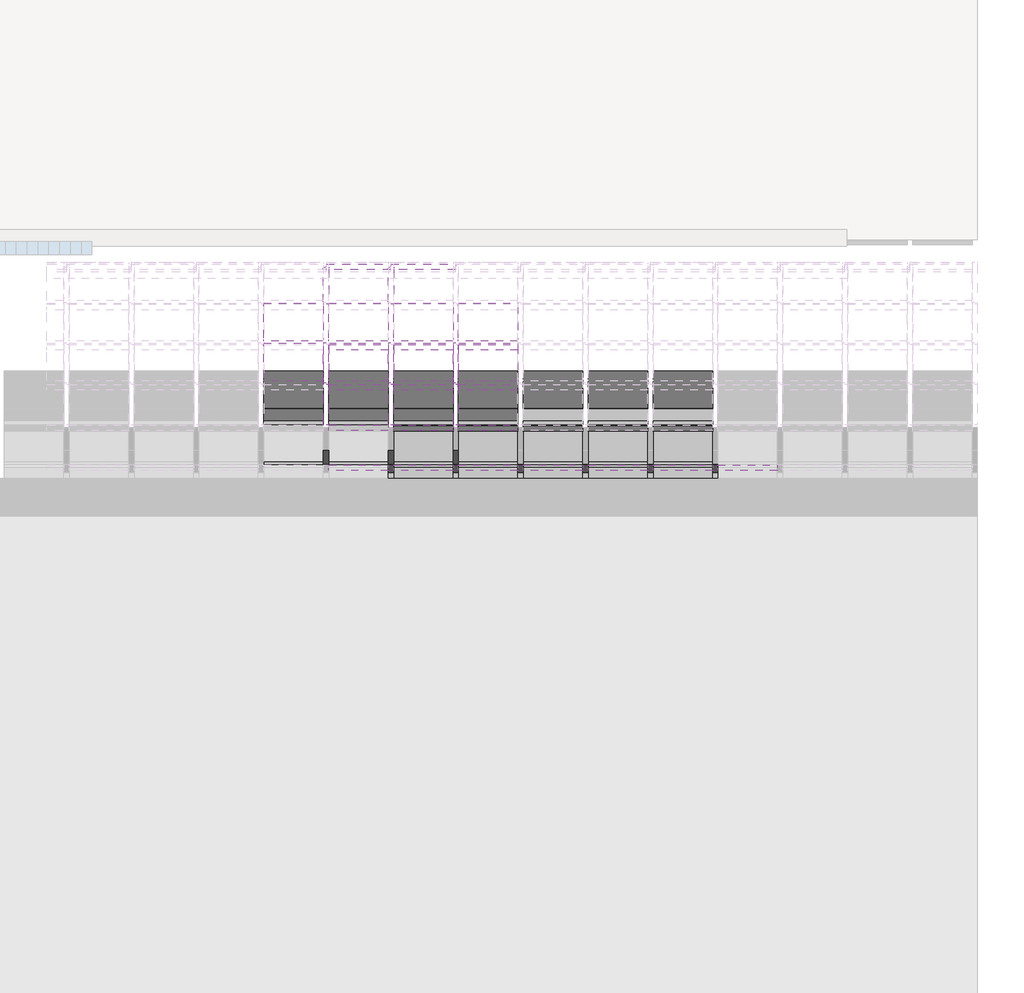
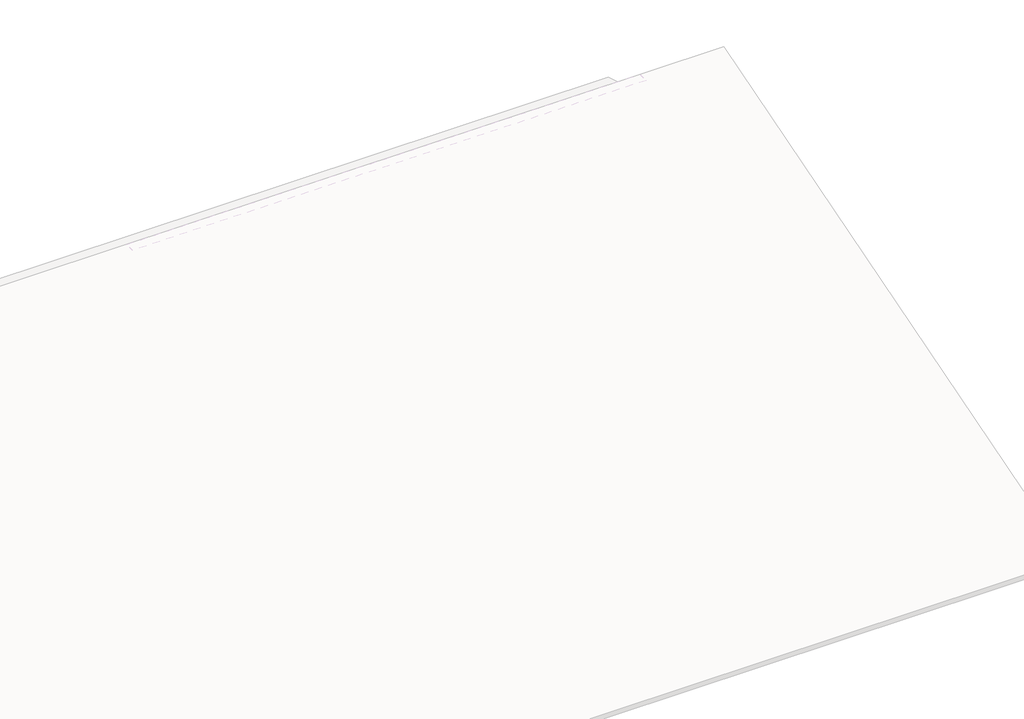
# One storey, part 51 of 57: 86 members, 38 plates.
"""IFC4 building model written with IfcOpenShell, lengths in millimetres."""

from ifc_helpers import new_model, si_unit, origin, place, context, project, spatial, transform, mapped, element, save
from components import rectangular_mullion_4c4137b9, rectangular_mullion_59984080, rectangular_mullion_2d2423ea, rectangular_mullion_caibro_df98490b, rectangular_mullion_caibro_e4384bba, rectangular_mullion_caibro_9bd7bc61, empty_system_panel_vazio_178faf58, empty_system_panel_vazio_2c78850d

model = new_model("IFC4")

# Units and contexts
model_context = context("Model", 3, world=origin())
ifc_project = project(units=[si_unit("LENGTHUNIT", "METRE", prefix="MILLI")], contexts=[model_context])

# Site, building, storey
site = spatial("IfcSite", under=ifc_project)
building = spatial("IfcBuilding", under=site)
storey = spatial("IfcBuildingStorey", under=building, Name="Nível 2", Elevation=4100.0)

# Members
placement = place(None, origin())
rectangular_mullion_shape = rectangular_mullion_4c4137b9(model_context)
element("IfcMember", 1, ObjectType="Rectangular Mullion : Ripa", at=placement, inside=storey, context=model_context, shape_type="MappedRepresentation", body=[
    mapped(rectangular_mullion_shape, transform((36380.8565248, 15566.1284427, 5819.8877114), x_axis=(0.0, 0.9578262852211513, 0.2873478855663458), y_axis=(0.0, 0.2873478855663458, -0.9578262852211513), z_axis=(-1.0, 0.0, 0.0))),
])
element("IfcMember", 2, ObjectType="Rectangular Mullion : Ripa", at=placement, inside=storey, context=model_context, shape_type="MappedRepresentation", body=[
    mapped(rectangular_mullion_shape, transform((36977.9112812, 15566.1284427, 5819.8877114), x_axis=(0.0, 0.9578262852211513, 0.2873478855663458), y_axis=(0.0, 0.2873478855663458, -0.9578262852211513), z_axis=(-1.0, 0.0, 0.0))),
])
rectangular_mullion_2_shape = rectangular_mullion_59984080(model_context)
element("IfcMember", 3, ObjectType="Rectangular Mullion : Ripa", at=placement, inside=storey, context=model_context, shape_type="MappedRepresentation", body=[
    mapped(rectangular_mullion_2_shape, transform((38197.0207941, 12234.5331147, 4820.409113), x_axis=(0.0, 0.9578262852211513, 0.2873478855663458), y_axis=(0.0, 0.2873478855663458, -0.9578262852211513), z_axis=(-1.0, 0.0, 0.0))),
])
element("IfcMember", 4, ObjectType="Rectangular Mullion : Ripa", at=placement, inside=storey, context=model_context, shape_type="MappedRepresentation", body=[
    mapped(rectangular_mullion_2_shape, transform((38794.0755505, 12234.5331147, 4820.409113), x_axis=(0.0, 0.9578262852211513, 0.2873478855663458), y_axis=(0.0, 0.2873478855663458, -0.9578262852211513), z_axis=(-1.0, 0.0, 0.0))),
])
element("IfcMember", 5, ObjectType="Rectangular Mullion : Ripa", at=placement, inside=storey, context=model_context, shape_type="MappedRepresentation", body=[
    mapped(rectangular_mullion_2_shape, transform((39391.1303069, 12234.5331147, 4820.409113), x_axis=(0.0, 0.9578262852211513, 0.2873478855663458), y_axis=(0.0, 0.2873478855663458, -0.9578262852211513), z_axis=(-1.0, 0.0, 0.0))),
])
element("IfcMember", 6, ObjectType="Rectangular Mullion : Ripa", at=placement, inside=storey, context=model_context, shape_type="MappedRepresentation", body=[
    mapped(rectangular_mullion_2_shape, transform((39988.1850634, 12234.5331147, 4820.409113), x_axis=(0.0, 0.9578262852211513, 0.2873478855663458), y_axis=(0.0, 0.2873478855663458, -0.9578262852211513), z_axis=(-1.0, 0.0, 0.0))),
])
element("IfcMember", 7, ObjectType="Rectangular Mullion : Ripa", at=placement, inside=storey, context=model_context, shape_type="MappedRepresentation", body=[
    mapped(rectangular_mullion_2_shape, transform((38197.0207941, 12604.7103734, 4931.4622906), x_axis=(0.0, 0.9578262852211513, 0.2873478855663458), y_axis=(0.0, 0.2873478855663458, -0.9578262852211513), z_axis=(-1.0, 0.0, 0.0))),
])
element("IfcMember", 8, ObjectType="Rectangular Mullion : Ripa", at=placement, inside=storey, context=model_context, shape_type="MappedRepresentation", body=[
    mapped(rectangular_mullion_2_shape, transform((38794.0755505, 12604.7103734, 4931.4622906), x_axis=(0.0, 0.9578262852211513, 0.2873478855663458), y_axis=(0.0, 0.2873478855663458, -0.9578262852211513), z_axis=(-1.0, 0.0, 0.0))),
])
element("IfcMember", 9, ObjectType="Rectangular Mullion : Ripa", at=placement, inside=storey, context=model_context, shape_type="MappedRepresentation", body=[
    mapped(rectangular_mullion_2_shape, transform((39391.1303069, 12604.7103734, 4931.4622906), x_axis=(0.0, 0.9578262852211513, 0.2873478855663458), y_axis=(0.0, 0.2873478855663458, -0.9578262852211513), z_axis=(-1.0, 0.0, 0.0))),
])
element("IfcMember", 10, ObjectType="Rectangular Mullion : Ripa", at=placement, inside=storey, context=model_context, shape_type="MappedRepresentation", body=[
    mapped(rectangular_mullion_2_shape, transform((39988.1850634, 12604.7103734, 4931.4622906), x_axis=(0.0, 0.9578262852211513, 0.2873478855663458), y_axis=(0.0, 0.2873478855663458, -0.9578262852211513), z_axis=(-1.0, 0.0, 0.0))),
])
element("IfcMember", 11, ObjectType="Rectangular Mullion : Ripa", at=placement, inside=storey, context=model_context, shape_type="MappedRepresentation", body=[
    mapped(rectangular_mullion_2_shape, transform((38197.0207941, 12974.8876321, 5042.5154682), x_axis=(0.0, 0.9578262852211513, 0.2873478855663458), y_axis=(0.0, 0.2873478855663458, -0.9578262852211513), z_axis=(-1.0, 0.0, 0.0))),
])
element("IfcMember", 12, ObjectType="Rectangular Mullion : Ripa", at=placement, inside=storey, context=model_context, shape_type="MappedRepresentation", body=[
    mapped(rectangular_mullion_2_shape, transform((38794.0755505, 12974.8876321, 5042.5154682), x_axis=(0.0, 0.9578262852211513, 0.2873478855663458), y_axis=(0.0, 0.2873478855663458, -0.9578262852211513), z_axis=(-1.0, 0.0, 0.0))),
])
element("IfcMember", 13, ObjectType="Rectangular Mullion : Ripa", at=placement, inside=storey, context=model_context, shape_type="MappedRepresentation", body=[
    mapped(rectangular_mullion_2_shape, transform((39391.1303069, 12974.8876321, 5042.5154682), x_axis=(0.0, 0.9578262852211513, 0.2873478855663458), y_axis=(0.0, 0.2873478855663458, -0.9578262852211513), z_axis=(-1.0, 0.0, 0.0))),
])
element("IfcMember", 14, ObjectType="Rectangular Mullion : Ripa", at=placement, inside=storey, context=model_context, shape_type="MappedRepresentation", body=[
    mapped(rectangular_mullion_2_shape, transform((39988.1850634, 12974.8876321, 5042.5154682), x_axis=(0.0, 0.9578262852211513, 0.2873478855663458), y_axis=(0.0, 0.2873478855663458, -0.9578262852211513), z_axis=(-1.0, 0.0, 0.0))),
])
element("IfcMember", 15, ObjectType="Rectangular Mullion : Ripa", at=placement, inside=storey, context=model_context, shape_type="MappedRepresentation", body=[
    mapped(rectangular_mullion_2_shape, transform((36405.8565248, 13345.0648907, 5153.5686458), x_axis=(0.0, 0.9578262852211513, 0.2873478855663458), y_axis=(0.0, 0.2873478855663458, -0.9578262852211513), z_axis=(-1.0, 0.0, 0.0))),
])
element("IfcMember", 16, ObjectType="Rectangular Mullion : Ripa", at=placement, inside=storey, context=model_context, shape_type="MappedRepresentation", body=[
    mapped(rectangular_mullion_2_shape, transform((37002.9112812, 13345.0648907, 5153.5686458), x_axis=(0.0, 0.9578262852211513, 0.2873478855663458), y_axis=(0.0, 0.2873478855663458, -0.9578262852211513), z_axis=(-1.0, 0.0, 0.0))),
])
element("IfcMember", 17, ObjectType="Rectangular Mullion : Ripa", at=placement, inside=storey, context=model_context, shape_type="MappedRepresentation", body=[
    mapped(rectangular_mullion_2_shape, transform((37599.9660377, 13345.0648907, 5153.5686458), x_axis=(0.0, 0.9578262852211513, 0.2873478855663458), y_axis=(0.0, 0.2873478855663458, -0.9578262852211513), z_axis=(-1.0, 0.0, 0.0))),
])
element("IfcMember", 18, ObjectType="Rectangular Mullion : Ripa", at=placement, inside=storey, context=model_context, shape_type="MappedRepresentation", body=[
    mapped(rectangular_mullion_2_shape, transform((38197.0207941, 13345.0648907, 5153.5686458), x_axis=(0.0, 0.9578262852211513, 0.2873478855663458), y_axis=(0.0, 0.2873478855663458, -0.9578262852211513), z_axis=(-1.0, 0.0, 0.0))),
])
element("IfcMember", 19, ObjectType="Rectangular Mullion : Ripa", at=placement, inside=storey, context=model_context, shape_type="MappedRepresentation", body=[
    mapped(rectangular_mullion_2_shape, transform((38794.0755505, 13345.0648907, 5153.5686458), x_axis=(0.0, 0.9578262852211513, 0.2873478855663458), y_axis=(0.0, 0.2873478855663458, -0.9578262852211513), z_axis=(-1.0, 0.0, 0.0))),
])
element("IfcMember", 20, ObjectType="Rectangular Mullion : Ripa", at=placement, inside=storey, context=model_context, shape_type="MappedRepresentation", body=[
    mapped(rectangular_mullion_2_shape, transform((39391.1303069, 13345.0648907, 5153.5686458), x_axis=(0.0, 0.9578262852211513, 0.2873478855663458), y_axis=(0.0, 0.2873478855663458, -0.9578262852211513), z_axis=(-1.0, 0.0, 0.0))),
])
element("IfcMember", 21, ObjectType="Rectangular Mullion : Ripa", at=placement, inside=storey, context=model_context, shape_type="MappedRepresentation", body=[
    mapped(rectangular_mullion_2_shape, transform((39988.1850634, 13345.0648907, 5153.5686458), x_axis=(0.0, 0.9578262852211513, 0.2873478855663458), y_axis=(0.0, 0.2873478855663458, -0.9578262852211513), z_axis=(-1.0, 0.0, 0.0))),
])
element("IfcMember", 22, ObjectType="Rectangular Mullion : Ripa", at=placement, inside=storey, context=model_context, shape_type="MappedRepresentation", body=[
    mapped(rectangular_mullion_2_shape, transform((36405.8565248, 13715.2421494, 5264.6218234), x_axis=(0.0, 0.9578262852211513, 0.2873478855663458), y_axis=(0.0, 0.2873478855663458, -0.9578262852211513), z_axis=(-1.0, 0.0, 0.0))),
])
element("IfcMember", 23, ObjectType="Rectangular Mullion : Ripa", at=placement, inside=storey, context=model_context, shape_type="MappedRepresentation", body=[
    mapped(rectangular_mullion_2_shape, transform((37002.9112812, 13715.2421494, 5264.6218234), x_axis=(0.0, 0.9578262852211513, 0.2873478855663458), y_axis=(0.0, 0.2873478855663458, -0.9578262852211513), z_axis=(-1.0, 0.0, 0.0))),
])
element("IfcMember", 24, ObjectType="Rectangular Mullion : Ripa", at=placement, inside=storey, context=model_context, shape_type="MappedRepresentation", body=[
    mapped(rectangular_mullion_2_shape, transform((37599.9660377, 13715.2421494, 5264.6218234), x_axis=(0.0, 0.9578262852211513, 0.2873478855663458), y_axis=(0.0, 0.2873478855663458, -0.9578262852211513), z_axis=(-1.0, 0.0, 0.0))),
])
element("IfcMember", 25, ObjectType="Rectangular Mullion : Ripa", at=placement, inside=storey, context=model_context, shape_type="MappedRepresentation", body=[
    mapped(rectangular_mullion_2_shape, transform((38197.0207941, 13715.2421494, 5264.6218234), x_axis=(0.0, 0.9578262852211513, 0.2873478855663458), y_axis=(0.0, 0.2873478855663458, -0.9578262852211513), z_axis=(-1.0, 0.0, 0.0))),
])
element("IfcMember", 26, ObjectType="Rectangular Mullion : Ripa", at=placement, inside=storey, context=model_context, shape_type="MappedRepresentation", body=[
    mapped(rectangular_mullion_2_shape, transform((38794.0755505, 13715.2421494, 5264.6218234), x_axis=(0.0, 0.9578262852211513, 0.2873478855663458), y_axis=(0.0, 0.2873478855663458, -0.9578262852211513), z_axis=(-1.0, 0.0, 0.0))),
])
element("IfcMember", 27, ObjectType="Rectangular Mullion : Ripa", at=placement, inside=storey, context=model_context, shape_type="MappedRepresentation", body=[
    mapped(rectangular_mullion_2_shape, transform((39391.1303069, 13715.2421494, 5264.6218234), x_axis=(0.0, 0.9578262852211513, 0.2873478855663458), y_axis=(0.0, 0.2873478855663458, -0.9578262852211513), z_axis=(-1.0, 0.0, 0.0))),
])
element("IfcMember", 28, ObjectType="Rectangular Mullion : Ripa", at=placement, inside=storey, context=model_context, shape_type="MappedRepresentation", body=[
    mapped(rectangular_mullion_2_shape, transform((39988.1850634, 13715.2421494, 5264.6218234), x_axis=(0.0, 0.9578262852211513, 0.2873478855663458), y_axis=(0.0, 0.2873478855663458, -0.9578262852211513), z_axis=(-1.0, 0.0, 0.0))),
])
element("IfcMember", 29, ObjectType="Rectangular Mullion : Ripa", at=placement, inside=storey, context=model_context, shape_type="MappedRepresentation", body=[
    mapped(rectangular_mullion_2_shape, transform((36405.8565248, 14085.4194081, 5375.675001), x_axis=(0.0, 0.9578262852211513, 0.2873478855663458), y_axis=(0.0, 0.2873478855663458, -0.9578262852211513), z_axis=(-1.0, 0.0, 0.0))),
])
element("IfcMember", 30, ObjectType="Rectangular Mullion : Ripa", at=placement, inside=storey, context=model_context, shape_type="MappedRepresentation", body=[
    mapped(rectangular_mullion_2_shape, transform((37002.9112812, 14085.4194081, 5375.675001), x_axis=(0.0, 0.9578262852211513, 0.2873478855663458), y_axis=(0.0, 0.2873478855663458, -0.9578262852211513), z_axis=(-1.0, 0.0, 0.0))),
])
element("IfcMember", 31, ObjectType="Rectangular Mullion : Ripa", at=placement, inside=storey, context=model_context, shape_type="MappedRepresentation", body=[
    mapped(rectangular_mullion_2_shape, transform((37599.9660377, 14085.4194081, 5375.675001), x_axis=(0.0, 0.9578262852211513, 0.2873478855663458), y_axis=(0.0, 0.2873478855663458, -0.9578262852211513), z_axis=(-1.0, 0.0, 0.0))),
])
element("IfcMember", 32, ObjectType="Rectangular Mullion : Ripa", at=placement, inside=storey, context=model_context, shape_type="MappedRepresentation", body=[
    mapped(rectangular_mullion_2_shape, transform((36405.8565248, 14455.5966667, 5486.7281786), x_axis=(0.0, 0.9578262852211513, 0.2873478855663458), y_axis=(0.0, 0.2873478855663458, -0.9578262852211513), z_axis=(-1.0, 0.0, 0.0))),
])
element("IfcMember", 33, ObjectType="Rectangular Mullion : Ripa", at=placement, inside=storey, context=model_context, shape_type="MappedRepresentation", body=[
    mapped(rectangular_mullion_2_shape, transform((37002.9112812, 14455.5966667, 5486.7281786), x_axis=(0.0, 0.9578262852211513, 0.2873478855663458), y_axis=(0.0, 0.2873478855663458, -0.9578262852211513), z_axis=(-1.0, 0.0, 0.0))),
])
element("IfcMember", 34, ObjectType="Rectangular Mullion : Ripa", at=placement, inside=storey, context=model_context, shape_type="MappedRepresentation", body=[
    mapped(rectangular_mullion_2_shape, transform((37599.9660377, 14455.5966667, 5486.7281786), x_axis=(0.0, 0.9578262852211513, 0.2873478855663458), y_axis=(0.0, 0.2873478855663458, -0.9578262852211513), z_axis=(-1.0, 0.0, 0.0))),
])
element("IfcMember", 35, ObjectType="Rectangular Mullion : Ripa", at=placement, inside=storey, context=model_context, shape_type="MappedRepresentation", body=[
    mapped(rectangular_mullion_2_shape, transform((36405.8565248, 14825.7739254, 5597.7813562), x_axis=(0.0, 0.9578262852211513, 0.2873478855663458), y_axis=(0.0, 0.2873478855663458, -0.9578262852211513), z_axis=(-1.0, 0.0, 0.0))),
])
element("IfcMember", 36, ObjectType="Rectangular Mullion : Ripa", at=placement, inside=storey, context=model_context, shape_type="MappedRepresentation", body=[
    mapped(rectangular_mullion_2_shape, transform((37002.9112812, 14825.7739254, 5597.7813562), x_axis=(0.0, 0.9578262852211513, 0.2873478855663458), y_axis=(0.0, 0.2873478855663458, -0.9578262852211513), z_axis=(-1.0, 0.0, 0.0))),
])
element("IfcMember", 37, ObjectType="Rectangular Mullion : Ripa", at=placement, inside=storey, context=model_context, shape_type="MappedRepresentation", body=[
    mapped(rectangular_mullion_2_shape, transform((37599.9660377, 14825.7739254, 5597.7813562), x_axis=(0.0, 0.9578262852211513, 0.2873478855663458), y_axis=(0.0, 0.2873478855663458, -0.9578262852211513), z_axis=(-1.0, 0.0, 0.0))),
])
rectangular_mullion_3_shape = rectangular_mullion_2d2423ea(model_context)
element("IfcMember", 38, ObjectType="Rectangular Mullion : Terça", at=placement, inside=storey, context=model_context, shape_type="MappedRepresentation", body=[
    mapped(rectangular_mullion_3_shape, transform((36405.8565248, 13411.2689826, 5110.7880343), x_axis=(0.0, 0.9578262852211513, 0.2873478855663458), y_axis=(0.0, 0.2873478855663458, -0.9578262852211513), z_axis=(-1.0, 0.0, 0.0))),
])
element("IfcMember", 39, ObjectType="Rectangular Mullion : Terça", at=placement, inside=storey, context=model_context, shape_type="MappedRepresentation", body=[
    mapped(rectangular_mullion_3_shape, transform((37002.9112812, 13411.2689826, 5110.7880343), x_axis=(0.0, 0.9578262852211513, 0.2873478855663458), y_axis=(0.0, 0.2873478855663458, -0.9578262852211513), z_axis=(-1.0, 0.0, 0.0))),
])
element("IfcMember", 40, ObjectType="Rectangular Mullion : Terça", at=placement, inside=storey, context=model_context, shape_type="MappedRepresentation", body=[
    mapped(rectangular_mullion_3_shape, transform((37599.9660377, 13411.2689826, 5110.7880343), x_axis=(0.0, 0.9578262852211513, 0.2873478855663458), y_axis=(0.0, 0.2873478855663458, -0.9578262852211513), z_axis=(-1.0, 0.0, 0.0))),
])
element("IfcMember", 41, ObjectType="Rectangular Mullion : Terça", at=placement, inside=storey, context=model_context, shape_type="MappedRepresentation", body=[
    mapped(rectangular_mullion_3_shape, transform((38197.0207941, 13411.2689826, 5110.7880343), x_axis=(0.0, 0.9578262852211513, 0.2873478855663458), y_axis=(0.0, 0.2873478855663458, -0.9578262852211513), z_axis=(-1.0, 0.0, 0.0))),
])
element("IfcMember", 42, ObjectType="Rectangular Mullion : Terça", at=placement, inside=storey, context=model_context, shape_type="MappedRepresentation", body=[
    mapped(rectangular_mullion_3_shape, transform((38794.0755505, 13411.2689826, 5110.7880343), x_axis=(0.0, 0.9578262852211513, 0.2873478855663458), y_axis=(0.0, 0.2873478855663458, -0.9578262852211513), z_axis=(-1.0, 0.0, 0.0))),
])
element("IfcMember", 43, ObjectType="Rectangular Mullion : Terça", at=placement, inside=storey, context=model_context, shape_type="MappedRepresentation", body=[
    mapped(rectangular_mullion_3_shape, transform((39391.1303069, 13411.2689826, 5110.7880343), x_axis=(0.0, 0.9578262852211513, 0.2873478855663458), y_axis=(0.0, 0.2873478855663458, -0.9578262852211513), z_axis=(-1.0, 0.0, 0.0))),
])
element("IfcMember", 44, ObjectType="Rectangular Mullion : Terça", at=placement, inside=storey, context=model_context, shape_type="MappedRepresentation", body=[
    mapped(rectangular_mullion_3_shape, transform((39988.1850634, 13411.2689826, 5110.7880343), x_axis=(0.0, 0.9578262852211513, 0.2873478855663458), y_axis=(0.0, 0.2873478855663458, -0.9578262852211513), z_axis=(-1.0, 0.0, 0.0))),
])
rectangular_mullion_caibro_shape = rectangular_mullion_caibro_df98490b(model_context)
element("IfcMember", 45, ObjectType="Rectangular Mullion : Caibro", at=placement, inside=storey, context=model_context, shape_type="MappedRepresentation", body=[
    mapped(rectangular_mullion_caibro_shape, transform((36380.8565248, 15518.2371285, 5805.5203171), x_axis=(1.0, 0.0, 0.0), y_axis=(0.0, 0.28734788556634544, -0.9578262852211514), z_axis=(0.0, 0.9578262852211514, 0.28734788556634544))),
])
element("IfcMember", 46, ObjectType="Rectangular Mullion : Caibro", at=placement, inside=storey, context=model_context, shape_type="MappedRepresentation", body=[
    mapped(rectangular_mullion_caibro_shape, transform((36977.9112812, 15518.2371285, 5805.5203171), x_axis=(1.0, 0.0, 0.0), y_axis=(0.0, 0.28734788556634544, -0.9578262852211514), z_axis=(0.0, 0.9578262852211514, 0.28734788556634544))),
])
rectangular_mullion_caibro_2_shape = rectangular_mullion_caibro_e4384bba(model_context)
element("IfcMember", 47, ObjectType="Rectangular Mullion : Caibro", at=placement, inside=storey, context=model_context, shape_type="MappedRepresentation", body=[
    mapped(rectangular_mullion_caibro_2_shape, transform((36380.8565248, 14085.4194081, 5375.675001), x_axis=(1.0, 0.0, 0.0), y_axis=(0.0, 0.28734788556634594, -0.9578262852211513), z_axis=(0.0, 0.9578262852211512, 0.2873478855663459))),
])
element("IfcMember", 48, ObjectType="Rectangular Mullion : Caibro", at=placement, inside=storey, context=model_context, shape_type="MappedRepresentation", body=[
    mapped(rectangular_mullion_caibro_2_shape, transform((36380.8565248, 14455.5966667, 5486.7281786), x_axis=(1.0, 0.0, 0.0), y_axis=(0.0, 0.2873478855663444, -0.9578262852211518), z_axis=(0.0, 0.9578262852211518, 0.2873478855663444))),
])
element("IfcMember", 49, ObjectType="Rectangular Mullion : Caibro", at=placement, inside=storey, context=model_context, shape_type="MappedRepresentation", body=[
    mapped(rectangular_mullion_caibro_2_shape, transform((36380.8565248, 14825.7739254, 5597.7813562), x_axis=(1.0, 0.0, 0.0), y_axis=(0.0, 0.287347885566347, -0.9578262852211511), z_axis=(0.0, 0.9578262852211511, 0.287347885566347))),
])
element("IfcMember", 50, ObjectType="Rectangular Mullion : Caibro", at=placement, inside=storey, context=model_context, shape_type="MappedRepresentation", body=[
    mapped(rectangular_mullion_caibro_2_shape, transform((36977.9112812, 13345.0648907, 5153.5686458), x_axis=(1.0, 0.0, 0.0), y_axis=(0.0, 0.28734788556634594, -0.9578262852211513), z_axis=(0.0, 0.9578262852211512, 0.2873478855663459))),
])
element("IfcMember", 51, ObjectType="Rectangular Mullion : Caibro", at=placement, inside=storey, context=model_context, shape_type="MappedRepresentation", body=[
    mapped(rectangular_mullion_caibro_2_shape, transform((36977.9112812, 13715.2421494, 5264.6218234), x_axis=(1.0, 0.0, 0.0), y_axis=(0.0, 0.28734788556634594, -0.9578262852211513), z_axis=(0.0, 0.9578262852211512, 0.2873478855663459))),
])
element("IfcMember", 52, ObjectType="Rectangular Mullion : Caibro", at=placement, inside=storey, context=model_context, shape_type="MappedRepresentation", body=[
    mapped(rectangular_mullion_caibro_2_shape, transform((36977.9112812, 14085.4194081, 5375.675001), x_axis=(1.0, 0.0, 0.0), y_axis=(0.0, 0.28734788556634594, -0.9578262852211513), z_axis=(0.0, 0.9578262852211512, 0.2873478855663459))),
])
element("IfcMember", 53, ObjectType="Rectangular Mullion : Caibro", at=placement, inside=storey, context=model_context, shape_type="MappedRepresentation", body=[
    mapped(rectangular_mullion_caibro_2_shape, transform((36977.9112812, 14455.5966667, 5486.7281786), x_axis=(1.0, 0.0, 0.0), y_axis=(0.0, 0.2873478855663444, -0.9578262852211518), z_axis=(0.0, 0.9578262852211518, 0.2873478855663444))),
])
element("IfcMember", 54, ObjectType="Rectangular Mullion : Caibro", at=placement, inside=storey, context=model_context, shape_type="MappedRepresentation", body=[
    mapped(rectangular_mullion_caibro_2_shape, transform((36977.9112812, 14825.7739254, 5597.7813562), x_axis=(1.0, 0.0, 0.0), y_axis=(0.0, 0.287347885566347, -0.9578262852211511), z_axis=(0.0, 0.9578262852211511, 0.287347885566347))),
])
element("IfcMember", 55, ObjectType="Rectangular Mullion : Caibro", at=placement, inside=storey, context=model_context, shape_type="MappedRepresentation", body=[
    mapped(rectangular_mullion_caibro_2_shape, transform((37574.9660377, 13345.0648907, 5153.5686458), x_axis=(1.0, 0.0, 0.0), y_axis=(0.0, 0.28734788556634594, -0.9578262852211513), z_axis=(0.0, 0.9578262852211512, 0.2873478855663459))),
])
element("IfcMember", 56, ObjectType="Rectangular Mullion : Caibro", at=placement, inside=storey, context=model_context, shape_type="MappedRepresentation", body=[
    mapped(rectangular_mullion_caibro_2_shape, transform((37574.9660377, 13715.2421494, 5264.6218234), x_axis=(1.0, 0.0, 0.0), y_axis=(0.0, 0.28734788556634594, -0.9578262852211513), z_axis=(0.0, 0.9578262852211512, 0.2873478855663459))),
])
element("IfcMember", 57, ObjectType="Rectangular Mullion : Caibro", at=placement, inside=storey, context=model_context, shape_type="MappedRepresentation", body=[
    mapped(rectangular_mullion_caibro_2_shape, transform((37574.9660377, 14085.4194081, 5375.675001), x_axis=(1.0, 0.0, 0.0), y_axis=(0.0, 0.28734788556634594, -0.9578262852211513), z_axis=(0.0, 0.9578262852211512, 0.2873478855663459))),
])
element("IfcMember", 58, ObjectType="Rectangular Mullion : Caibro", at=placement, inside=storey, context=model_context, shape_type="MappedRepresentation", body=[
    mapped(rectangular_mullion_caibro_2_shape, transform((37574.9660377, 14455.5966667, 5486.7281786), x_axis=(1.0, 0.0, 0.0), y_axis=(0.0, 0.2873478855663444, -0.9578262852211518), z_axis=(0.0, 0.9578262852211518, 0.2873478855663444))),
])
element("IfcMember", 59, ObjectType="Rectangular Mullion : Caibro", at=placement, inside=storey, context=model_context, shape_type="MappedRepresentation", body=[
    mapped(rectangular_mullion_caibro_2_shape, transform((37574.9660377, 14825.7739254, 5597.7813562), x_axis=(1.0, 0.0, 0.0), y_axis=(0.0, 0.287347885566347, -0.9578262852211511), z_axis=(0.0, 0.9578262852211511, 0.287347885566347))),
])
element("IfcMember", 60, ObjectType="Rectangular Mullion : Caibro", at=placement, inside=storey, context=model_context, shape_type="MappedRepresentation", body=[
    mapped(rectangular_mullion_caibro_2_shape, transform((38172.0207941, 12234.5331147, 4820.409113), x_axis=(1.0, 0.0, 0.0), y_axis=(0.0, 0.2873478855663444, -0.9578262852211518), z_axis=(0.0, 0.9578262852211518, 0.2873478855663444))),
])
element("IfcMember", 61, ObjectType="Rectangular Mullion : Caibro", at=placement, inside=storey, context=model_context, shape_type="MappedRepresentation", body=[
    mapped(rectangular_mullion_caibro_2_shape, transform((38172.0207941, 12604.7103734, 4931.4622906), x_axis=(1.0, 0.0, 0.0), y_axis=(0.0, 0.2873478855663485, -0.9578262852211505), z_axis=(0.0, 0.9578262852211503, 0.28734788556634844))),
])
element("IfcMember", 62, ObjectType="Rectangular Mullion : Caibro", at=placement, inside=storey, context=model_context, shape_type="MappedRepresentation", body=[
    mapped(rectangular_mullion_caibro_2_shape, transform((38172.0207941, 12974.8876321, 5042.5154682), x_axis=(1.0, 0.0, 0.0), y_axis=(0.0, 0.2873478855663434, -0.957826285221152), z_axis=(0.0, 0.957826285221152, 0.2873478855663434))),
])
element("IfcMember", 63, ObjectType="Rectangular Mullion : Caibro", at=placement, inside=storey, context=model_context, shape_type="MappedRepresentation", body=[
    mapped(rectangular_mullion_caibro_2_shape, transform((38172.0207941, 13345.0648907, 5153.5686458), x_axis=(1.0, 0.0, 0.0), y_axis=(0.0, 0.28734788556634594, -0.9578262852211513), z_axis=(0.0, 0.9578262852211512, 0.2873478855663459))),
])
element("IfcMember", 64, ObjectType="Rectangular Mullion : Caibro", at=placement, inside=storey, context=model_context, shape_type="MappedRepresentation", body=[
    mapped(rectangular_mullion_caibro_2_shape, transform((38172.0207941, 13715.2421494, 5264.6218234), x_axis=(1.0, 0.0, 0.0), y_axis=(0.0, 0.28734788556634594, -0.9578262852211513), z_axis=(0.0, 0.9578262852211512, 0.2873478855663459))),
])
element("IfcMember", 65, ObjectType="Rectangular Mullion : Caibro", at=placement, inside=storey, context=model_context, shape_type="MappedRepresentation", body=[
    mapped(rectangular_mullion_caibro_2_shape, transform((38769.0755505, 12234.5331147, 4820.409113), x_axis=(1.0, 0.0, 0.0), y_axis=(0.0, 0.2873478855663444, -0.9578262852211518), z_axis=(0.0, 0.9578262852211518, 0.2873478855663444))),
])
element("IfcMember", 66, ObjectType="Rectangular Mullion : Caibro", at=placement, inside=storey, context=model_context, shape_type="MappedRepresentation", body=[
    mapped(rectangular_mullion_caibro_2_shape, transform((38769.0755505, 12604.7103734, 4931.4622906), x_axis=(1.0, 0.0, 0.0), y_axis=(0.0, 0.2873478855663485, -0.9578262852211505), z_axis=(0.0, 0.9578262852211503, 0.28734788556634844))),
])
element("IfcMember", 67, ObjectType="Rectangular Mullion : Caibro", at=placement, inside=storey, context=model_context, shape_type="MappedRepresentation", body=[
    mapped(rectangular_mullion_caibro_2_shape, transform((38769.0755505, 12974.8876321, 5042.5154682), x_axis=(1.0, 0.0, 0.0), y_axis=(0.0, 0.2873478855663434, -0.957826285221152), z_axis=(0.0, 0.957826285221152, 0.2873478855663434))),
])
element("IfcMember", 68, ObjectType="Rectangular Mullion : Caibro", at=placement, inside=storey, context=model_context, shape_type="MappedRepresentation", body=[
    mapped(rectangular_mullion_caibro_2_shape, transform((38769.0755505, 13345.0648907, 5153.5686458), x_axis=(1.0, 0.0, 0.0), y_axis=(0.0, 0.28734788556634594, -0.9578262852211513), z_axis=(0.0, 0.9578262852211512, 0.2873478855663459))),
])
element("IfcMember", 69, ObjectType="Rectangular Mullion : Caibro", at=placement, inside=storey, context=model_context, shape_type="MappedRepresentation", body=[
    mapped(rectangular_mullion_caibro_2_shape, transform((38769.0755505, 13715.2421494, 5264.6218234), x_axis=(1.0, 0.0, 0.0), y_axis=(0.0, 0.28734788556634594, -0.9578262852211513), z_axis=(0.0, 0.9578262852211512, 0.2873478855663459))),
])
element("IfcMember", 70, ObjectType="Rectangular Mullion : Caibro", at=placement, inside=storey, context=model_context, shape_type="MappedRepresentation", body=[
    mapped(rectangular_mullion_caibro_2_shape, transform((39366.1303069, 12234.5331147, 4820.409113), x_axis=(1.0, 0.0, 0.0), y_axis=(0.0, 0.2873478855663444, -0.9578262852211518), z_axis=(0.0, 0.9578262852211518, 0.2873478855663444))),
])
element("IfcMember", 71, ObjectType="Rectangular Mullion : Caibro", at=placement, inside=storey, context=model_context, shape_type="MappedRepresentation", body=[
    mapped(rectangular_mullion_caibro_2_shape, transform((39366.1303069, 12604.7103734, 4931.4622906), x_axis=(1.0, 0.0, 0.0), y_axis=(0.0, 0.2873478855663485, -0.9578262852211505), z_axis=(0.0, 0.9578262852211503, 0.28734788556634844))),
])
element("IfcMember", 72, ObjectType="Rectangular Mullion : Caibro", at=placement, inside=storey, context=model_context, shape_type="MappedRepresentation", body=[
    mapped(rectangular_mullion_caibro_2_shape, transform((39366.1303069, 12974.8876321, 5042.5154682), x_axis=(1.0, 0.0, 0.0), y_axis=(0.0, 0.2873478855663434, -0.957826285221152), z_axis=(0.0, 0.957826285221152, 0.2873478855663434))),
])
element("IfcMember", 73, ObjectType="Rectangular Mullion : Caibro", at=placement, inside=storey, context=model_context, shape_type="MappedRepresentation", body=[
    mapped(rectangular_mullion_caibro_2_shape, transform((39366.1303069, 13345.0648907, 5153.5686458), x_axis=(1.0, 0.0, 0.0), y_axis=(0.0, 0.28734788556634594, -0.9578262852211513), z_axis=(0.0, 0.9578262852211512, 0.2873478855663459))),
])
element("IfcMember", 74, ObjectType="Rectangular Mullion : Caibro", at=placement, inside=storey, context=model_context, shape_type="MappedRepresentation", body=[
    mapped(rectangular_mullion_caibro_2_shape, transform((39366.1303069, 13715.2421494, 5264.6218234), x_axis=(1.0, 0.0, 0.0), y_axis=(0.0, 0.28734788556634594, -0.9578262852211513), z_axis=(0.0, 0.9578262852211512, 0.2873478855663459))),
])
element("IfcMember", 75, ObjectType="Rectangular Mullion : Caibro", at=placement, inside=storey, context=model_context, shape_type="MappedRepresentation", body=[
    mapped(rectangular_mullion_caibro_2_shape, transform((39963.1850634, 12234.5331147, 4820.409113), x_axis=(1.0, 0.0, 0.0), y_axis=(0.0, 0.2873478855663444, -0.9578262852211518), z_axis=(0.0, 0.9578262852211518, 0.2873478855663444))),
])
element("IfcMember", 76, ObjectType="Rectangular Mullion : Caibro", at=placement, inside=storey, context=model_context, shape_type="MappedRepresentation", body=[
    mapped(rectangular_mullion_caibro_2_shape, transform((39963.1850634, 12604.7103734, 4931.4622906), x_axis=(1.0, 0.0, 0.0), y_axis=(0.0, 0.2873478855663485, -0.9578262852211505), z_axis=(0.0, 0.9578262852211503, 0.28734788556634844))),
])
element("IfcMember", 77, ObjectType="Rectangular Mullion : Caibro", at=placement, inside=storey, context=model_context, shape_type="MappedRepresentation", body=[
    mapped(rectangular_mullion_caibro_2_shape, transform((39963.1850634, 12974.8876321, 5042.5154682), x_axis=(1.0, 0.0, 0.0), y_axis=(0.0, 0.2873478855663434, -0.957826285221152), z_axis=(0.0, 0.957826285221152, 0.2873478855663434))),
])
element("IfcMember", 78, ObjectType="Rectangular Mullion : Caibro", at=placement, inside=storey, context=model_context, shape_type="MappedRepresentation", body=[
    mapped(rectangular_mullion_caibro_2_shape, transform((39963.1850634, 13345.0648907, 5153.5686458), x_axis=(1.0, 0.0, 0.0), y_axis=(0.0, 0.28734788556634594, -0.9578262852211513), z_axis=(0.0, 0.9578262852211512, 0.2873478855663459))),
])
element("IfcMember", 79, ObjectType="Rectangular Mullion : Caibro", at=placement, inside=storey, context=model_context, shape_type="MappedRepresentation", body=[
    mapped(rectangular_mullion_caibro_2_shape, transform((39963.1850634, 13715.2421494, 5264.6218234), x_axis=(1.0, 0.0, 0.0), y_axis=(0.0, 0.28734788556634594, -0.9578262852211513), z_axis=(0.0, 0.9578262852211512, 0.2873478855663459))),
])
rectangular_mullion_caibro_3_shape = rectangular_mullion_caibro_9bd7bc61(model_context)
element("IfcMember", 80, ObjectType="Rectangular Mullion : Caibro", at=placement, inside=storey, context=model_context, shape_type="MappedRepresentation", body=[
    mapped(rectangular_mullion_caibro_3_shape, transform((36380.8565248, 13411.2689826, 5110.7880343), x_axis=(1.0, 0.0, 0.0), y_axis=(0.0, 0.2873478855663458, -0.9578262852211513), z_axis=(0.0, 0.9578262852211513, 0.2873478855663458))),
])
element("IfcMember", 81, ObjectType="Rectangular Mullion : Caibro", at=placement, inside=storey, context=model_context, shape_type="MappedRepresentation", body=[
    mapped(rectangular_mullion_caibro_3_shape, transform((36977.9112812, 13411.2689826, 5110.7880343), x_axis=(1.0, 0.0, 0.0), y_axis=(0.0, 0.2873478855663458, -0.9578262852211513), z_axis=(0.0, 0.9578262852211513, 0.2873478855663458))),
])
element("IfcMember", 82, ObjectType="Rectangular Mullion : Caibro", at=placement, inside=storey, context=model_context, shape_type="MappedRepresentation", body=[
    mapped(rectangular_mullion_caibro_3_shape, transform((37574.9660377, 13411.2689826, 5110.7880343), x_axis=(1.0, 0.0, 0.0), y_axis=(0.0, 0.2873478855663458, -0.9578262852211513), z_axis=(0.0, 0.9578262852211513, 0.2873478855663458))),
])
element("IfcMember", 83, ObjectType="Rectangular Mullion : Caibro", at=placement, inside=storey, context=model_context, shape_type="MappedRepresentation", body=[
    mapped(rectangular_mullion_caibro_3_shape, transform((38172.0207941, 13411.2689826, 5110.7880343), x_axis=(1.0, 0.0, 0.0), y_axis=(0.0, 0.2873478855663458, -0.9578262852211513), z_axis=(0.0, 0.9578262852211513, 0.2873478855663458))),
])
element("IfcMember", 84, ObjectType="Rectangular Mullion : Caibro", at=placement, inside=storey, context=model_context, shape_type="MappedRepresentation", body=[
    mapped(rectangular_mullion_caibro_3_shape, transform((38769.0755505, 13411.2689826, 5110.7880343), x_axis=(1.0, 0.0, 0.0), y_axis=(0.0, 0.2873478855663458, -0.9578262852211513), z_axis=(0.0, 0.9578262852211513, 0.2873478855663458))),
])
element("IfcMember", 85, ObjectType="Rectangular Mullion : Caibro", at=placement, inside=storey, context=model_context, shape_type="MappedRepresentation", body=[
    mapped(rectangular_mullion_caibro_3_shape, transform((39366.1303069, 13411.2689826, 5110.7880343), x_axis=(1.0, 0.0, 0.0), y_axis=(0.0, 0.2873478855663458, -0.9578262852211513), z_axis=(0.0, 0.9578262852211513, 0.2873478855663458))),
])
element("IfcMember", 86, ObjectType="Rectangular Mullion : Caibro", at=placement, inside=storey, context=model_context, shape_type="MappedRepresentation", body=[
    mapped(rectangular_mullion_caibro_3_shape, transform((39963.1850634, 13411.2689826, 5110.7880343), x_axis=(1.0, 0.0, 0.0), y_axis=(0.0, 0.2873478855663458, -0.9578262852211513), z_axis=(0.0, 0.9578262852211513, 0.2873478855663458))),
])

# Plates
empty_system_panel_vazio_shape = empty_system_panel_vazio_178faf58(model_context)
element("IfcPlate", 87, ObjectType="Empty System Panel : Vazio", at=placement, inside=storey, context=model_context, shape_type="MappedRepresentation", body=[
    mapped(empty_system_panel_vazio_shape, transform((38470.5481723, 12234.5331147, 4820.409113), x_axis=(1.0, 0.0, 0.0), y_axis=(0.0, 0.2873478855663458, -0.9578262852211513), z_axis=(0.0, 0.9578262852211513, 0.2873478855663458))),
])
element("IfcPlate", 88, ObjectType="Empty System Panel : Vazio", at=placement, inside=storey, context=model_context, shape_type="MappedRepresentation", body=[
    mapped(empty_system_panel_vazio_shape, transform((39067.6029287, 12234.5331147, 4820.409113), x_axis=(1.0, 0.0, 0.0), y_axis=(0.0, 0.2873478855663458, -0.9578262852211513), z_axis=(0.0, 0.9578262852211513, 0.2873478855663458))),
])
element("IfcPlate", 89, ObjectType="Empty System Panel : Vazio", at=placement, inside=storey, context=model_context, shape_type="MappedRepresentation", body=[
    mapped(empty_system_panel_vazio_shape, transform((39664.6576851, 12234.5331147, 4820.409113), x_axis=(1.0, 0.0, 0.0), y_axis=(0.0, 0.2873478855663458, -0.9578262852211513), z_axis=(0.0, 0.9578262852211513, 0.2873478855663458))),
])
element("IfcPlate", 90, ObjectType="Empty System Panel : Vazio", at=placement, inside=storey, context=model_context, shape_type="MappedRepresentation", body=[
    mapped(empty_system_panel_vazio_shape, transform((38470.5481723, 12604.7103734, 4931.4622906), x_axis=(1.0, 0.0, 0.0), y_axis=(0.0, 0.2873478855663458, -0.9578262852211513), z_axis=(0.0, 0.9578262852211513, 0.2873478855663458))),
])
element("IfcPlate", 91, ObjectType="Empty System Panel : Vazio", at=placement, inside=storey, context=model_context, shape_type="MappedRepresentation", body=[
    mapped(empty_system_panel_vazio_shape, transform((39067.6029287, 12604.7103734, 4931.4622906), x_axis=(1.0, 0.0, 0.0), y_axis=(0.0, 0.2873478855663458, -0.9578262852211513), z_axis=(0.0, 0.9578262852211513, 0.2873478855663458))),
])
element("IfcPlate", 92, ObjectType="Empty System Panel : Vazio", at=placement, inside=storey, context=model_context, shape_type="MappedRepresentation", body=[
    mapped(empty_system_panel_vazio_shape, transform((39664.6576851, 12604.7103734, 4931.4622906), x_axis=(1.0, 0.0, 0.0), y_axis=(0.0, 0.2873478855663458, -0.9578262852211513), z_axis=(0.0, 0.9578262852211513, 0.2873478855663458))),
])
element("IfcPlate", 93, ObjectType="Empty System Panel : Vazio", at=placement, inside=storey, context=model_context, shape_type="MappedRepresentation", body=[
    mapped(empty_system_panel_vazio_shape, transform((38470.5481723, 12974.8876321, 5042.5154682), x_axis=(1.0, 0.0, 0.0), y_axis=(0.0, 0.2873478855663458, -0.9578262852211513), z_axis=(0.0, 0.9578262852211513, 0.2873478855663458))),
])
element("IfcPlate", 94, ObjectType="Empty System Panel : Vazio", at=placement, inside=storey, context=model_context, shape_type="MappedRepresentation", body=[
    mapped(empty_system_panel_vazio_shape, transform((39067.6029287, 12974.8876321, 5042.5154682), x_axis=(1.0, 0.0, 0.0), y_axis=(0.0, 0.2873478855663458, -0.9578262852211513), z_axis=(0.0, 0.9578262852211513, 0.2873478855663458))),
])
element("IfcPlate", 95, ObjectType="Empty System Panel : Vazio", at=placement, inside=storey, context=model_context, shape_type="MappedRepresentation", body=[
    mapped(empty_system_panel_vazio_shape, transform((39664.6576851, 12974.8876321, 5042.5154682), x_axis=(1.0, 0.0, 0.0), y_axis=(0.0, 0.2873478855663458, -0.9578262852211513), z_axis=(0.0, 0.9578262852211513, 0.2873478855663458))),
])
element("IfcPlate", 96, ObjectType="Empty System Panel : Vazio", at=placement, inside=storey, context=model_context, shape_type="MappedRepresentation", body=[
    mapped(empty_system_panel_vazio_shape, transform((37276.4386594, 13345.0648907, 5153.5686458), x_axis=(1.0, 0.0, 0.0), y_axis=(0.0, 0.2873478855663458, -0.9578262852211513), z_axis=(0.0, 0.9578262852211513, 0.2873478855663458))),
])
element("IfcPlate", 97, ObjectType="Empty System Panel : Vazio", at=placement, inside=storey, context=model_context, shape_type="MappedRepresentation", body=[
    mapped(empty_system_panel_vazio_shape, transform((37873.4934159, 13345.0648907, 5153.5686458), x_axis=(1.0, 0.0, 0.0), y_axis=(0.0, 0.2873478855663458, -0.9578262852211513), z_axis=(0.0, 0.9578262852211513, 0.2873478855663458))),
])
element("IfcPlate", 98, ObjectType="Empty System Panel : Vazio", at=placement, inside=storey, context=model_context, shape_type="MappedRepresentation", body=[
    mapped(empty_system_panel_vazio_shape, transform((38470.5481723, 13345.0648907, 5153.5686458), x_axis=(1.0, 0.0, 0.0), y_axis=(0.0, 0.2873478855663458, -0.9578262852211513), z_axis=(0.0, 0.9578262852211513, 0.2873478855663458))),
])
element("IfcPlate", 99, ObjectType="Empty System Panel : Vazio", at=placement, inside=storey, context=model_context, shape_type="MappedRepresentation", body=[
    mapped(empty_system_panel_vazio_shape, transform((39067.6029287, 13345.0648907, 5153.5686458), x_axis=(1.0, 0.0, 0.0), y_axis=(0.0, 0.2873478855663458, -0.9578262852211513), z_axis=(0.0, 0.9578262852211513, 0.2873478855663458))),
])
element("IfcPlate", 100, ObjectType="Empty System Panel : Vazio", at=placement, inside=storey, context=model_context, shape_type="MappedRepresentation", body=[
    mapped(empty_system_panel_vazio_shape, transform((39664.6576851, 13345.0648907, 5153.5686458), x_axis=(1.0, 0.0, 0.0), y_axis=(0.0, 0.2873478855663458, -0.9578262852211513), z_axis=(0.0, 0.9578262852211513, 0.2873478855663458))),
])
element("IfcPlate", 101, ObjectType="Empty System Panel : Vazio", at=placement, inside=storey, context=model_context, shape_type="MappedRepresentation", body=[
    mapped(empty_system_panel_vazio_shape, transform((37276.4386594, 13715.2421494, 5264.6218234), x_axis=(1.0, 0.0, 0.0), y_axis=(0.0, 0.2873478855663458, -0.9578262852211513), z_axis=(0.0, 0.9578262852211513, 0.2873478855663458))),
])
element("IfcPlate", 102, ObjectType="Empty System Panel : Vazio", at=placement, inside=storey, context=model_context, shape_type="MappedRepresentation", body=[
    mapped(empty_system_panel_vazio_shape, transform((37873.4934159, 13715.2421494, 5264.6218234), x_axis=(1.0, 0.0, 0.0), y_axis=(0.0, 0.2873478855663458, -0.9578262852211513), z_axis=(0.0, 0.9578262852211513, 0.2873478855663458))),
])
element("IfcPlate", 103, ObjectType="Empty System Panel : Vazio", at=placement, inside=storey, context=model_context, shape_type="MappedRepresentation", body=[
    mapped(empty_system_panel_vazio_shape, transform((38470.5481723, 13715.2421494, 5264.6218234), x_axis=(1.0, 0.0, 0.0), y_axis=(0.0, 0.2873478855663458, -0.9578262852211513), z_axis=(0.0, 0.9578262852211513, 0.2873478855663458))),
])
element("IfcPlate", 104, ObjectType="Empty System Panel : Vazio", at=placement, inside=storey, context=model_context, shape_type="MappedRepresentation", body=[
    mapped(empty_system_panel_vazio_shape, transform((39067.6029287, 13715.2421494, 5264.6218234), x_axis=(1.0, 0.0, 0.0), y_axis=(0.0, 0.2873478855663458, -0.9578262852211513), z_axis=(0.0, 0.9578262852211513, 0.2873478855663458))),
])
element("IfcPlate", 105, ObjectType="Empty System Panel : Vazio", at=placement, inside=storey, context=model_context, shape_type="MappedRepresentation", body=[
    mapped(empty_system_panel_vazio_shape, transform((39664.6576851, 13715.2421494, 5264.6218234), x_axis=(1.0, 0.0, 0.0), y_axis=(0.0, 0.2873478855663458, -0.9578262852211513), z_axis=(0.0, 0.9578262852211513, 0.2873478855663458))),
])
element("IfcPlate", 106, ObjectType="Empty System Panel : Vazio", at=placement, inside=storey, context=model_context, shape_type="MappedRepresentation", body=[
    mapped(empty_system_panel_vazio_shape, transform((36082.3291466, 14085.4194081, 5375.675001), x_axis=(1.0, 0.0, 0.0), y_axis=(0.0, 0.2873478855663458, -0.9578262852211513), z_axis=(0.0, 0.9578262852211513, 0.2873478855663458))),
])
element("IfcPlate", 107, ObjectType="Empty System Panel : Vazio", at=placement, inside=storey, context=model_context, shape_type="MappedRepresentation", body=[
    mapped(empty_system_panel_vazio_shape, transform((36679.383903, 14085.4194081, 5375.675001), x_axis=(1.0, 0.0, 0.0), y_axis=(0.0, 0.2873478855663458, -0.9578262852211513), z_axis=(0.0, 0.9578262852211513, 0.2873478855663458))),
])
element("IfcPlate", 108, ObjectType="Empty System Panel : Vazio", at=placement, inside=storey, context=model_context, shape_type="MappedRepresentation", body=[
    mapped(empty_system_panel_vazio_shape, transform((37276.4386594, 14085.4194081, 5375.675001), x_axis=(1.0, 0.0, 0.0), y_axis=(0.0, 0.2873478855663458, -0.9578262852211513), z_axis=(0.0, 0.9578262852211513, 0.2873478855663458))),
])
element("IfcPlate", 109, ObjectType="Empty System Panel : Vazio", at=placement, inside=storey, context=model_context, shape_type="MappedRepresentation", body=[
    mapped(empty_system_panel_vazio_shape, transform((37873.4934159, 14085.4194081, 5375.675001), x_axis=(1.0, 0.0, 0.0), y_axis=(0.0, 0.2873478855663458, -0.9578262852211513), z_axis=(0.0, 0.9578262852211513, 0.2873478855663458))),
])
element("IfcPlate", 110, ObjectType="Empty System Panel : Vazio", at=placement, inside=storey, context=model_context, shape_type="MappedRepresentation", body=[
    mapped(empty_system_panel_vazio_shape, transform((36082.3291466, 14455.5966667, 5486.7281786), x_axis=(1.0, 0.0, 0.0), y_axis=(0.0, 0.2873478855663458, -0.9578262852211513), z_axis=(0.0, 0.9578262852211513, 0.2873478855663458))),
])
element("IfcPlate", 111, ObjectType="Empty System Panel : Vazio", at=placement, inside=storey, context=model_context, shape_type="MappedRepresentation", body=[
    mapped(empty_system_panel_vazio_shape, transform((36679.383903, 14455.5966667, 5486.7281786), x_axis=(1.0, 0.0, 0.0), y_axis=(0.0, 0.2873478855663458, -0.9578262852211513), z_axis=(0.0, 0.9578262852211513, 0.2873478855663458))),
])
element("IfcPlate", 112, ObjectType="Empty System Panel : Vazio", at=placement, inside=storey, context=model_context, shape_type="MappedRepresentation", body=[
    mapped(empty_system_panel_vazio_shape, transform((37276.4386594, 14455.5966667, 5486.7281786), x_axis=(1.0, 0.0, 0.0), y_axis=(0.0, 0.2873478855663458, -0.9578262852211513), z_axis=(0.0, 0.9578262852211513, 0.2873478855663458))),
])
element("IfcPlate", 113, ObjectType="Empty System Panel : Vazio", at=placement, inside=storey, context=model_context, shape_type="MappedRepresentation", body=[
    mapped(empty_system_panel_vazio_shape, transform((37873.4934159, 14455.5966667, 5486.7281786), x_axis=(1.0, 0.0, 0.0), y_axis=(0.0, 0.2873478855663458, -0.9578262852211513), z_axis=(0.0, 0.9578262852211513, 0.2873478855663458))),
])
element("IfcPlate", 114, ObjectType="Empty System Panel : Vazio", at=placement, inside=storey, context=model_context, shape_type="MappedRepresentation", body=[
    mapped(empty_system_panel_vazio_shape, transform((36082.3291466, 14825.7739254, 5597.7813562), x_axis=(1.0, 0.0, 0.0), y_axis=(0.0, 0.2873478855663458, -0.9578262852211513), z_axis=(0.0, 0.9578262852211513, 0.2873478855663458))),
])
element("IfcPlate", 115, ObjectType="Empty System Panel : Vazio", at=placement, inside=storey, context=model_context, shape_type="MappedRepresentation", body=[
    mapped(empty_system_panel_vazio_shape, transform((36679.383903, 14825.7739254, 5597.7813562), x_axis=(1.0, 0.0, 0.0), y_axis=(0.0, 0.2873478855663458, -0.9578262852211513), z_axis=(0.0, 0.9578262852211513, 0.2873478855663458))),
])
element("IfcPlate", 116, ObjectType="Empty System Panel : Vazio", at=placement, inside=storey, context=model_context, shape_type="MappedRepresentation", body=[
    mapped(empty_system_panel_vazio_shape, transform((37276.4386594, 14825.7739254, 5597.7813562), x_axis=(1.0, 0.0, 0.0), y_axis=(0.0, 0.2873478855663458, -0.9578262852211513), z_axis=(0.0, 0.9578262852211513, 0.2873478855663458))),
])
element("IfcPlate", 117, ObjectType="Empty System Panel : Vazio", at=placement, inside=storey, context=model_context, shape_type="MappedRepresentation", body=[
    mapped(empty_system_panel_vazio_shape, transform((37873.4934159, 14825.7739254, 5597.7813562), x_axis=(1.0, 0.0, 0.0), y_axis=(0.0, 0.2873478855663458, -0.9578262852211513), z_axis=(0.0, 0.9578262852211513, 0.2873478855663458))),
])
empty_system_panel_vazio_2_shape = empty_system_panel_vazio_2c78850d(model_context)
element("IfcPlate", 118, ObjectType="Empty System Panel : Vazio", at=placement, inside=storey, context=model_context, shape_type="MappedRepresentation", body=[
    mapped(empty_system_panel_vazio_2_shape, transform((36082.3291466, 13440.0037711, 5119.4084708), x_axis=(1.0, 0.0, 0.0), y_axis=(0.0, 0.2873478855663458, -0.9578262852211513), z_axis=(0.0, 0.9578262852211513, 0.2873478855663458))),
])
element("IfcPlate", 119, ObjectType="Empty System Panel : Vazio", at=placement, inside=storey, context=model_context, shape_type="MappedRepresentation", body=[
    mapped(empty_system_panel_vazio_2_shape, transform((36679.383903, 13440.0037711, 5119.4084708), x_axis=(1.0, 0.0, 0.0), y_axis=(0.0, 0.2873478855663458, -0.9578262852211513), z_axis=(0.0, 0.9578262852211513, 0.2873478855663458))),
])
element("IfcPlate", 120, ObjectType="Empty System Panel : Vazio", at=placement, inside=storey, context=model_context, shape_type="MappedRepresentation", body=[
    mapped(empty_system_panel_vazio_2_shape, transform((37276.4386594, 13440.0037711, 5119.4084708), x_axis=(1.0, 0.0, 0.0), y_axis=(0.0, 0.2873478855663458, -0.9578262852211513), z_axis=(0.0, 0.9578262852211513, 0.2873478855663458))),
])
element("IfcPlate", 121, ObjectType="Empty System Panel : Vazio", at=placement, inside=storey, context=model_context, shape_type="MappedRepresentation", body=[
    mapped(empty_system_panel_vazio_2_shape, transform((37873.4934159, 13440.0037711, 5119.4084708), x_axis=(1.0, 0.0, 0.0), y_axis=(0.0, 0.2873478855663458, -0.9578262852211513), z_axis=(0.0, 0.9578262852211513, 0.2873478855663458))),
])
element("IfcPlate", 122, ObjectType="Empty System Panel : Vazio", at=placement, inside=storey, context=model_context, shape_type="MappedRepresentation", body=[
    mapped(empty_system_panel_vazio_2_shape, transform((38470.5481723, 13440.0037711, 5119.4084708), x_axis=(1.0, 0.0, 0.0), y_axis=(0.0, 0.2873478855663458, -0.9578262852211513), z_axis=(0.0, 0.9578262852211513, 0.2873478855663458))),
])
element("IfcPlate", 123, ObjectType="Empty System Panel : Vazio", at=placement, inside=storey, context=model_context, shape_type="MappedRepresentation", body=[
    mapped(empty_system_panel_vazio_2_shape, transform((39067.6029287, 13440.0037711, 5119.4084708), x_axis=(1.0, 0.0, 0.0), y_axis=(0.0, 0.2873478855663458, -0.9578262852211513), z_axis=(0.0, 0.9578262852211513, 0.2873478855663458))),
])
element("IfcPlate", 124, ObjectType="Empty System Panel : Vazio", at=placement, inside=storey, context=model_context, shape_type="MappedRepresentation", body=[
    mapped(empty_system_panel_vazio_2_shape, transform((39664.6576851, 13440.0037711, 5119.4084708), x_axis=(1.0, 0.0, 0.0), y_axis=(0.0, 0.2873478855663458, -0.9578262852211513), z_axis=(0.0, 0.9578262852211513, 0.2873478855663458))),
])

save(model, "model.ifc")
